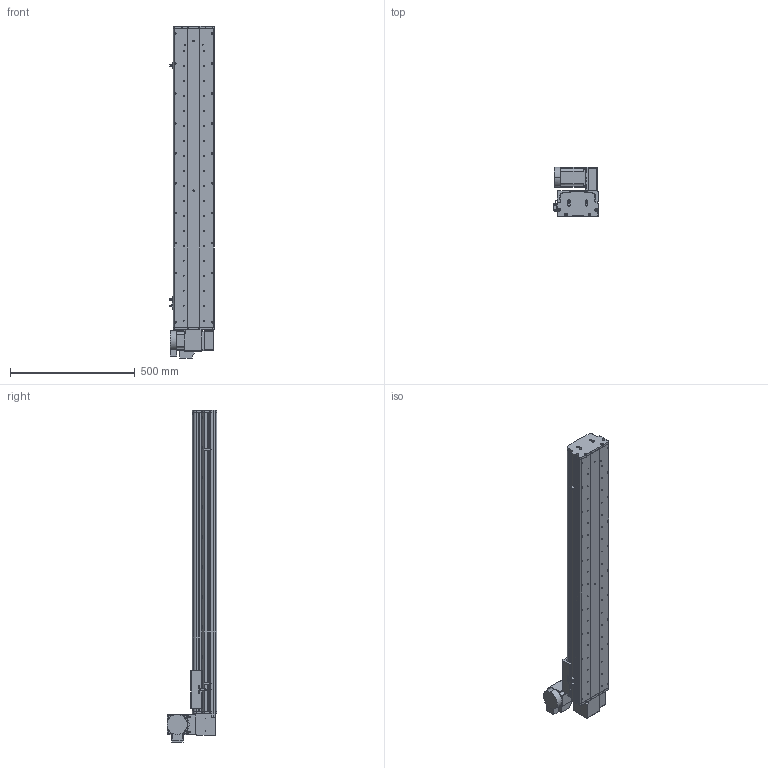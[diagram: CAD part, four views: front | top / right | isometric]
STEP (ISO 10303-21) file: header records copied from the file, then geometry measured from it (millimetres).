
FILE_DESCRIPTION (( 'STEP AP214' ), '1' );
FILE_NAME ('KSD165B-S950-MRU-CM .STEP', '2017-10-17T02:35:46', ( '微软用户' ), ( '微软中国' ), 'SwSTEP 2.0', 'SolidWorks 2014', '' );
FILE_SCHEMA (( 'AUTOMOTIVE_DESIGN' ));
Length unit declared in the file: millimetre
Products named in the file (17): 130宽模组保护罩上下左右折-同步带; HTPA26S5M250-A-H8 750W萇儂蚚; HTPA26S5M250-A-H8 400W萇儂蚚 ; KSD165模组-同步带防尘盖1-950行程-最新版; KSD165模组同步带底板-950行程-最新; 拸秶雄ん750W侜督萇儂; 165宽马达安装板同步带右; U倰嫖萇假蚾璃; U倰嫖萇EEㄜSX672; 覜茼え68遵圉猾敕; KSD165模组-同步带-防撞垫2; KSD165模组同步带-防撞垫1; KSD165耀郪-ヶ傷啣1-肮祭湍; KSD165模组-后端板1-同步带; KSD165模组-同步带滑动座-最新版; KSD165B-S950-MRU-CM ; 130宽模组马达安装板连板上下折丝杆同步带
Assembly tree (20 placements, depth 2):
  KSD165B-S950-MRU-CM 
    KSD165模组-同步带滑动座-最新版
    KSD165模组-后端板1-同步带
    KSD165耀郪-ヶ傷啣1-肮祭湍
    KSD165模组同步带-防撞垫1
    KSD165模组-同步带-防撞垫2
    覜茼え68遵圉猾敕
    U倰嫖萇EEㄜSX672  x3
    U倰嫖萇假蚾璃  x3
    165宽马达安装板同步带右
    拸秶雄ん750W侜督萇儂
    KSD165模组同步带底板-950行程-最新
    KSD165模组-同步带防尘盖1-950行程-最新版
    HTPA26S5M250-A-H8 400W萇儂蚚 
    HTPA26S5M250-A-H8 750W萇儂蚚
    130宽模组保护罩上下左右折-同步带
    130宽模组马达安装板连板上下折丝杆同步带
Bounding box: 178.7 x 198 x 1330.5 mm (x, y, z)
Volume: 7694080.5 mm3; surface area: 1786193.3 mm2
Topology: 21 solids, 21 shells, 1961 faces, 5538 edges, 3616 vertices
Faces by surface type: cylinder 1263, plane 586, cone 112
Entity records: 63724 total; most frequent: CARTESIAN_POINT 13048, DIRECTION 10470, ORIENTED_EDGE 9736, EDGE_CURVE 4868, AXIS2_PLACEMENT_3D 4108, VERTEX_POINT 3208, CIRCLE 2344, LINE 2254
